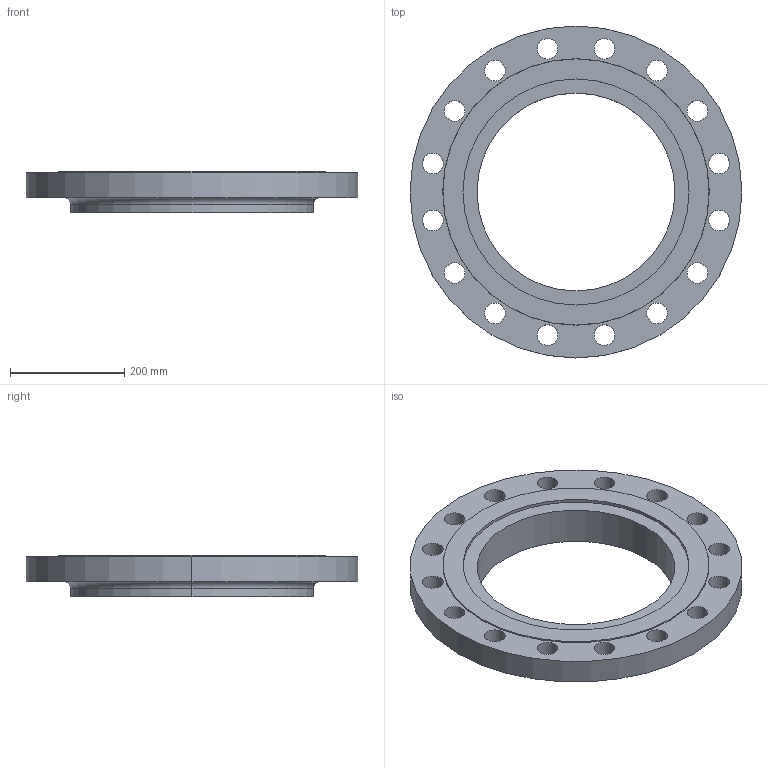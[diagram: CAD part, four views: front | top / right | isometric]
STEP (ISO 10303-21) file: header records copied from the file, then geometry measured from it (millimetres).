
FILE_DESCRIPTION (( 'STEP AP214' ), '1' );
FILE_NAME ('PN40 DN350 Type 13 - Type G Face.STEP', '2019-01-05T21:47:46', ( '' ), ( '' ), 'SwSTEP 2.0', 'SolidWorks 2019', '' );
FILE_SCHEMA (( 'AUTOMOTIVE_DESIGN' ));
Length unit declared in the file: millimetre
Products named in the file (1): PN40 DN350 Type 13 - Type G Face
Bounding box: 580 x 580 x 72 mm (x, y, z)
Volume: 8046796.1 mm3; surface area: 577277.8 mm2
Topology: 1 solids, 1 shells, 49 faces, 130 edges, 86 vertices
Faces by surface type: cylinder 40, plane 5, torus 2, cone 2
Entity records: 1678 total; most frequent: DIRECTION 318, CARTESIAN_POINT 266, ORIENTED_EDGE 260, AXIS2_PLACEMENT_3D 138, EDGE_CURVE 130, CIRCLE 88, EDGE_LOOP 86, VERTEX_POINT 86
